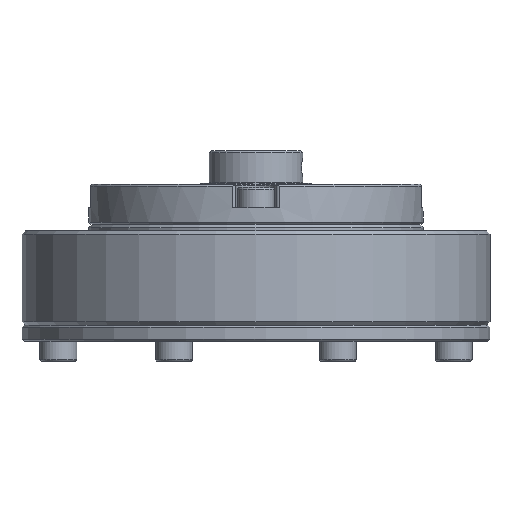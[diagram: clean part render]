
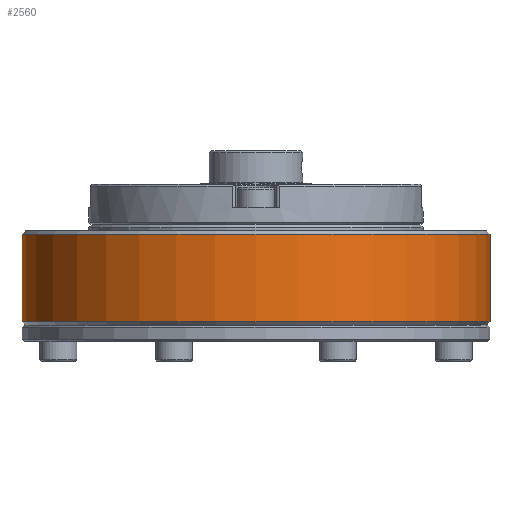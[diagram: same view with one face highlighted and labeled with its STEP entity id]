
A CAD part, front view. The second image highlights one B-rep face of the part: STEP entity #2560.
In plain terms, the highlighted cylindrical face has radius 35 mm (diameter 70 mm), a full revolution.
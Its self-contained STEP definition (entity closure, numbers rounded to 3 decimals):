
#2358=CYLINDRICAL_SURFACE('',#11044,35.);
#2560=ADVANCED_FACE('',(#3545,#3546),#2358,.T.);
#3545=FACE_BOUND('',#4319,.T.);
#3546=FACE_BOUND('',#4320,.T.);
#4319=EDGE_LOOP('',(#5389));
#4320=EDGE_LOOP('',(#5390));
#5389=ORIENTED_EDGE('',*,*,#8989,.F.);
#5390=ORIENTED_EDGE('',*,*,#8988,.T.);
#7978=VERTEX_POINT('',#15826);
#7979=VERTEX_POINT('',#15829);
#8988=EDGE_CURVE('',#7978,#7978,#10297,.T.);
#8989=EDGE_CURVE('',#7979,#7979,#10298,.T.);
#10297=CIRCLE('',#11041,35.);
#10298=CIRCLE('',#11043,35.);
#11041=AXIS2_PLACEMENT_3D('',#15825,#12560,#12561);
#11043=AXIS2_PLACEMENT_3D('',#15828,#12564,#12565);
#11044=AXIS2_PLACEMENT_3D('',#15830,#12566,#12567);
#12560=DIRECTION('',(0.,0.,-1.));
#12561=DIRECTION('',(-1.,0.,0.));
#12564=DIRECTION('',(0.,0.,-1.));
#12565=DIRECTION('',(-1.,0.,0.));
#12566=DIRECTION('',(0.,0.,-1.));
#12567=DIRECTION('',(-1.,0.,0.));
#15825=CARTESIAN_POINT('',(0.,0.,13.6));
#15826=CARTESIAN_POINT('',(-35.,0.,13.6));
#15828=CARTESIAN_POINT('',(0.,0.,0.5));
#15829=CARTESIAN_POINT('',(-35.,0.,0.5));
#15830=CARTESIAN_POINT('',(0.,0.,0.));
